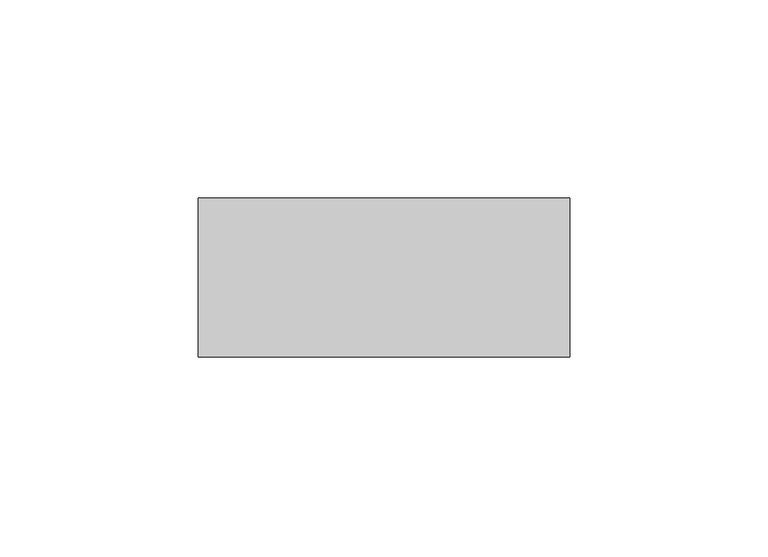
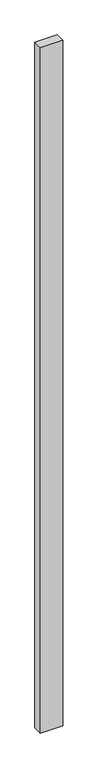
"""IFC4 building model written with IfcOpenShell, lengths in millimetres: plate geometry, Vitré."""

from ifc_helpers import new_model, si_unit, origin, origin_with_axes, place, context, project, spatial, polyline, outline, extrude, source, transform, mapped, element, save


def plate_7cd7901c(model_context):
    return source(origin(), model_context, "Body", "SweptSolid", [
        extrude(outline(polyline([(-46.7985846, -20.0), (-46.7985846, 20.0), (46.7985846, 20.0), (46.7985846, -20.0), (-46.7985846, -20.0)])), origin_with_axes(), (0.0, 0.0, 1.0), 3047.625),
    ])


if __name__ == "__main__":
    model = new_model("IFC4")
    model_context = context("Model", 3, world=origin())
    ifc_project = project(units=[si_unit("LENGTHUNIT", "METRE", prefix="MILLI")], contexts=[model_context])
    site = spatial("IfcSite", under=ifc_project)
    building = spatial("IfcBuilding", under=site)
    placement = place(None, origin())
    plate_shape = plate_7cd7901c(model_context)
    element("IfcPlate", 1, ObjectType="Vitré", at=placement, inside=building, context=model_context, shape_type="MappedRepresentation", body=[
        mapped(plate_shape, transform((0.0, 0.0, 0.0), x_axis=(1.0, 0.0, 0.0), y_axis=(0.0, 1.0, 0.0), z_axis=(0.0, 0.0, 1.0))),
    ])
    save(model, "model.ifc")
